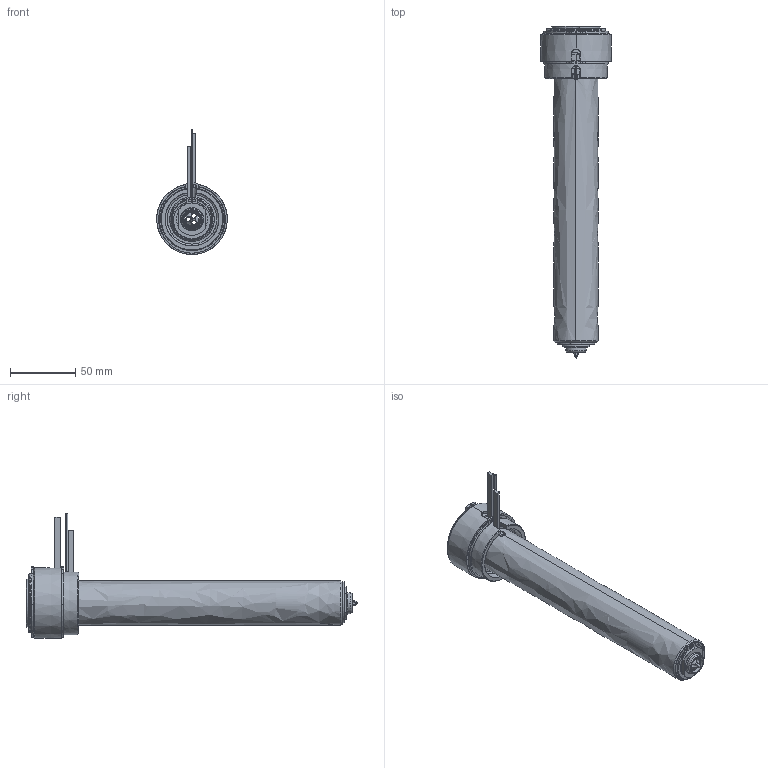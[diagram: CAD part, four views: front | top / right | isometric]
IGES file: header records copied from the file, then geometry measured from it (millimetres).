
Start section: SolidWorks IGES file using analytic representation for surfaces
Global section: file name: C:\Documents and Settings\ws-20\Desktop\TEM\UGEP5505-M-A-0 [Øf-1.18 ØC-13].IGS; native system: SolidWorks 2012; preprocessor: SolidWorks 2012; author: ws-20; date: 120427.082042; units: millimetre
Bounding box: 54 x 254.05 x 95.62 mm (x, y, z)
Surface area: 104920.2 mm2 (no closed solid volume)
Topology: 0 solids, 0 shells, 183 faces, 3629 edges, 3629 vertices
Faces by surface type: revolution 116, bspline 67
